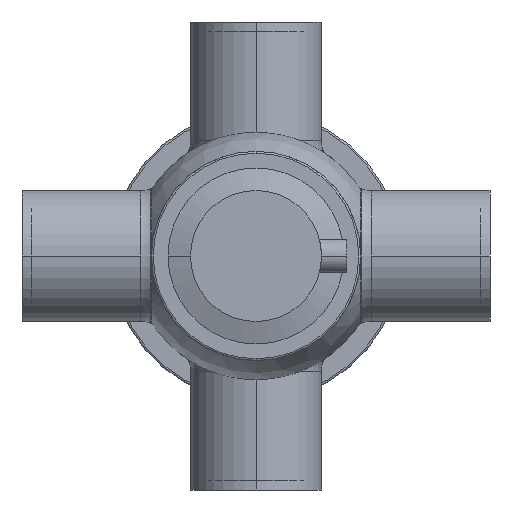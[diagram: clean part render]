
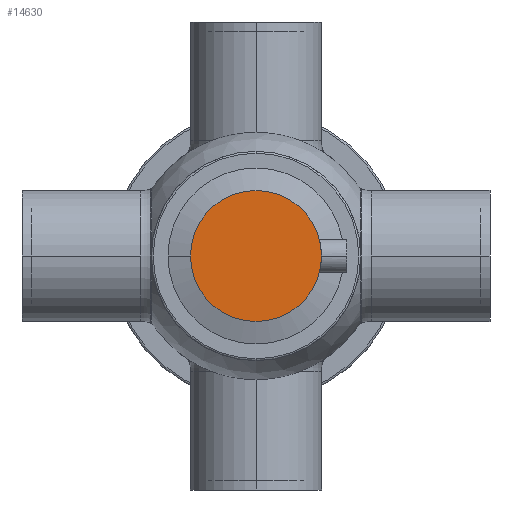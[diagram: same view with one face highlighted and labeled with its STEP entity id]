
A CAD part, front view. The second image highlights one B-rep face of the part: STEP entity #14630.
In plain terms, the highlighted planar face has unit normal (0, -1, 0).
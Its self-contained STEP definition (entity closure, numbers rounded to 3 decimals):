
#9530=CARTESIAN_POINT('',(-35.,-92.85,0.));
#9540=VERTEX_POINT('',#9530);
#14390=CARTESIAN_POINT('',(35.,-92.85,0.))
;
#14400=VERTEX_POINT('',#14390);
#14430=CARTESIAN_POINT('',(0.,-92.85,0.));
#14440=DIRECTION('',(0.,-1.,0.));
#14450=DIRECTION('',(-1.,0.,0.));
#14460=AXIS2_PLACEMENT_3D('',#14430,#14440,#14450);
#14470=CIRCLE('',#14460,35.);
#14480=EDGE_CURVE('',#14400,#9540,#14470,.T.);
#14530=CARTESIAN_POINT('',(0.,-92.85,0.));
#14540=DIRECTION('',(0.,-1.,0.));
#14550=DIRECTION('',(-1.,0.,0.));
#14560=AXIS2_PLACEMENT_3D('',#14530,#14540,#14550);
#14570=PLANE('',#14560);
#14580=EDGE_CURVE('',#9540,#14400,#14470,.T.);
#14590=ORIENTED_EDGE('',*,*,#14580,.T.);
#14600=ORIENTED_EDGE('',*,*,#14480,.T.);
#14610=EDGE_LOOP('',(#14600,#14590));
#14620=FACE_OUTER_BOUND('',#14610,.T.);
#14630=ADVANCED_FACE('',(#14620),#14570,.T.);
